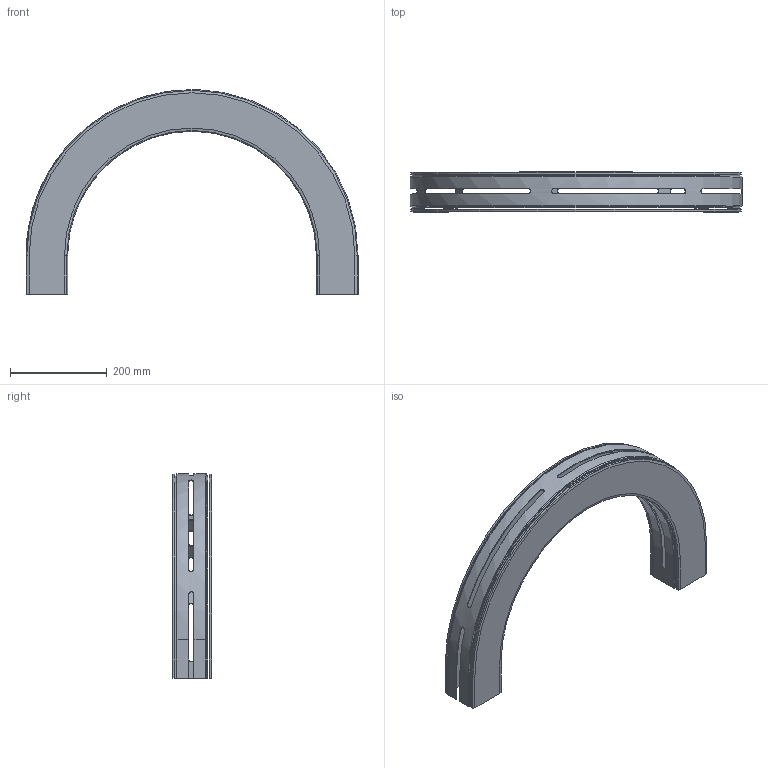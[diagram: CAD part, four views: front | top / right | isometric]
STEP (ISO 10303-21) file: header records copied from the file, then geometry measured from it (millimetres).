
FILE_DESCRIPTION((''),'2;1');
FILE_NAME('C:\Vault Klient\Projekt\Koncept konstruktion\Serie 530 Balk\530-5220.stp','2010-12-01T08:08:47',('Mathias'),(''),'Autodesk Inventor 2011','Autodesk Inventor 2011','');
FILE_SCHEMA(('AUTOMOTIVE_DESIGN { 1 0 10303 214 1 1 1 1 }'));
Length unit declared in the file: millimetre
Products named in the file (1): 530-5220
Bounding box: 686 x 82 x 423 mm (x, y, z)
Volume: 1595215.1 mm3; surface area: 761878 mm2
Topology: 2 solids, 2 shells, 179 faces, 506 edges, 332 vertices
Faces by surface type: plane 115, cylinder 30, bspline 26, torus 4, cone 4
Entity records: 6558 total; most frequent: CARTESIAN_POINT 1896, ORIENTED_EDGE 1012, DIRECTION 862, EDGE_CURVE 506, VECTOR 354, LINE 354, VERTEX_POINT 332, AXIS2_PLACEMENT_3D 254
